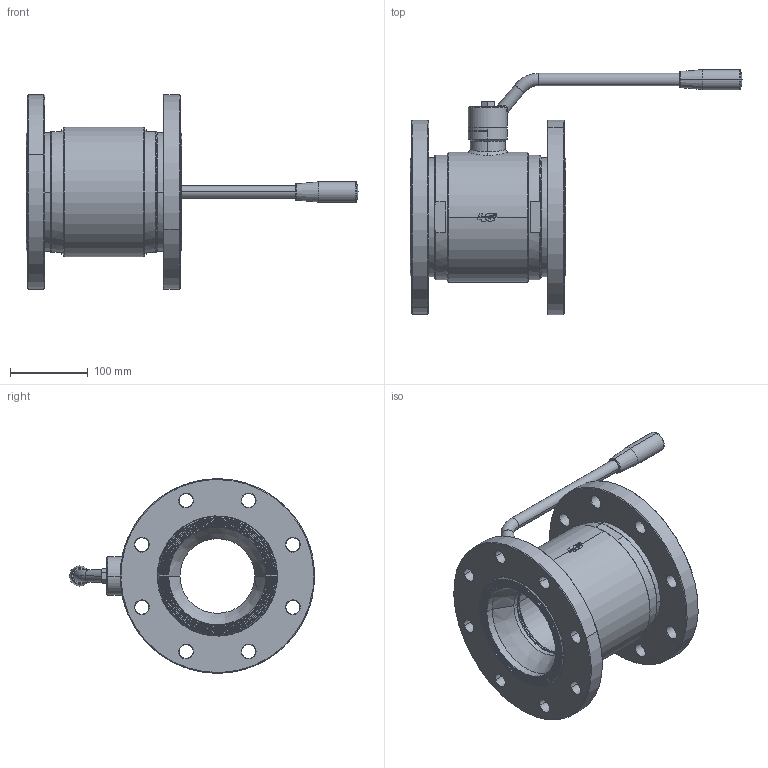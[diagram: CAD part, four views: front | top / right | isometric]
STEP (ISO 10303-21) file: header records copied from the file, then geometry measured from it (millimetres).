
FILE_DESCRIPTION((''),'2;1');
FILE_NAME('13015065510_SW0001','2026-04-30T14:23:06',('tecnico2'),('CDM Tecnoconsulting'),'CREO PARAMETRIC BY PTC INC, 2024063','CREO PARAMETRIC BY PTC INC, 2024063','');
FILE_SCHEMA(('CONFIG_CONTROL_DESIGN','SHAPE_APPEARANCE_LAYERS_GROUPS'));
Products named in the file (1): 13015065510_SW0001
Bounding box: 426.5 x 314.88 x 249.76 mm (x, y, z)
Volume: 3798988.7 mm3; surface area: 597118 mm2
Topology: 1 solids, 1 shells, 913 faces, 2355 edges, 1468 vertices
Faces by surface type: plane 322, cylinder 201, cone 199, torus 62, bspline 59, extrusion 56, sphere 14
Entity records: 49872 total; most frequent: CARTESIAN_POINT 18904, ORIENTED_EDGE 4674, DIRECTION 4287, PRESENTATION_STYLE_ASSIGNMENT 2676, STYLED_ITEM 2394, CURVE_STYLE 2393, EDGE_CURVE 2337, AXIS2_PLACEMENT_3D 1574
